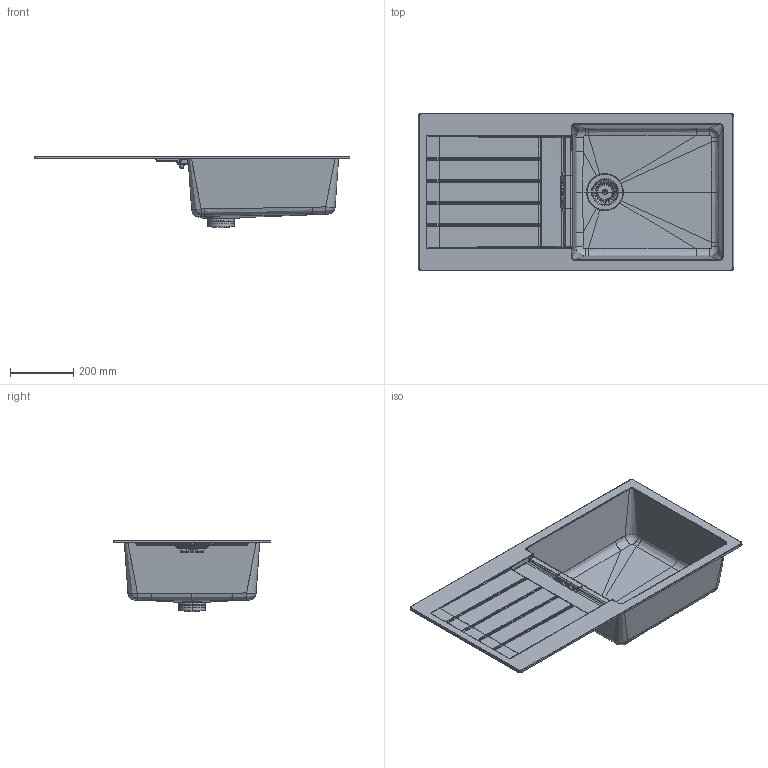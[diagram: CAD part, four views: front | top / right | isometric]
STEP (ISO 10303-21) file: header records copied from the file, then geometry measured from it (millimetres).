
FILE_DESCRIPTION(/* description */ (''),/* implementation_level */ '2;1');
FILE_NAME(/* name */ 'SIGD100L',/* time_stamp */ '2014-11-04T10:46:33+01:00',/* author */ (''),/* organization */ (''),/* preprocessor_version */ 'ST-DEVELOPER v15',/* originating_system */ '',/* authorisation */ '');
FILE_SCHEMA (('AUTOMOTIVE_DESIGN'));
Length unit declared in the file: millimetre
Products named in the file (1): Document
Bounding box: 1000 x 500 x 227.2 mm (x, y, z)
Volume: 31105.3 mm3; surface area: 952380.6 mm2
Topology: 3 solids, 448 shells, 626 faces, 2128 edges, 1905 vertices
Faces by surface type: bspline 574, plane 52
Entity records: 80646 total; most frequent: CARTESIAN_POINT 68606, ORIENTED_EDGE 2714, EDGE_CURVE 2118, VERTEX_POINT 1905, B_SPLINE_CURVE_WITH_KNOTS 1525, EDGE_LOOP 710, ADVANCED_FACE 626, FACE_OUTER_BOUND 626
